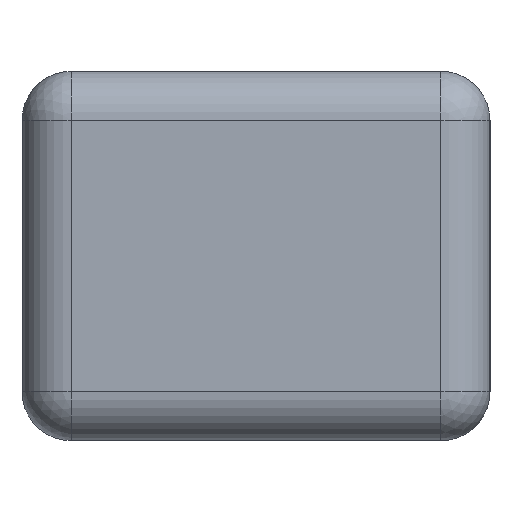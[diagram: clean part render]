
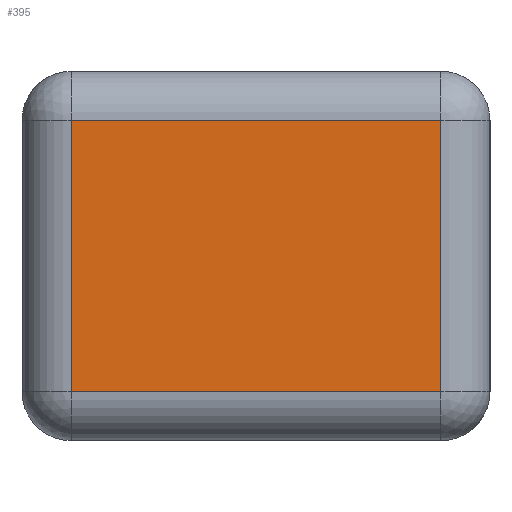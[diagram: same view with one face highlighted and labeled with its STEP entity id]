
A CAD part, left-side view. The second image highlights one B-rep face of the part: STEP entity #395.
In plain terms, the highlighted planar face has unit normal (-1, 0, 0).
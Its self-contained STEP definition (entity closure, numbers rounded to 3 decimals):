
#25=PLANE('',#469);
#29=LINE('',#646,#53);
#38=LINE('',#680,#62);
#40=LINE('',#683,#64);
#49=LINE('',#704,#73);
#53=VECTOR('',#515,10.);
#62=VECTOR('',#556,10.);
#64=VECTOR('',#560,10.);
#73=VECTOR('',#587,10.);
#113=FACE_OUTER_BOUND('',#143,.T.);
#143=EDGE_LOOP('',(#349,#350,#351,#352));
#180=VERTEX_POINT('',#616);
#186=VERTEX_POINT('',#633);
#188=VERTEX_POINT('',#639);
#199=VERTEX_POINT('',#675);
#221=EDGE_CURVE('',#188,#180,#29,.T.);
#239=EDGE_CURVE('',#186,#199,#38,.T.);
#241=EDGE_CURVE('',#199,#188,#40,.T.);
#253=EDGE_CURVE('',#180,#186,#49,.T.);
#349=ORIENTED_EDGE('',*,*,#239,.F.);
#350=ORIENTED_EDGE('',*,*,#253,.F.);
#351=ORIENTED_EDGE('',*,*,#221,.F.);
#352=ORIENTED_EDGE('',*,*,#241,.F.);
#395=ADVANCED_FACE('',(#113),#25,.T.);
#469=AXIS2_PLACEMENT_3D('',#714,#601,#602);
#515=DIRECTION('',(0.,0.,-1.));
#556=DIRECTION('',(0.,0.,1.));
#560=DIRECTION('',(0.,-1.,0.));
#587=DIRECTION('',(0.,1.,0.));
#601=DIRECTION('center_axis',(-1.,0.,0.));
#602=DIRECTION('ref_axis',(0.,-1.,0.));
#616=CARTESIAN_POINT('',(0.,2.,2.));
#633=CARTESIAN_POINT('',(0.,17.,2.));
#639=CARTESIAN_POINT('',(0.,2.,13.));
#646=CARTESIAN_POINT('',(0.,2.,0.));
#675=CARTESIAN_POINT('',(0.,17.,13.));
#680=CARTESIAN_POINT('',(0.,17.,0.));
#683=CARTESIAN_POINT('',(0.,14.25,13.));
#704=CARTESIAN_POINT('',(0.,14.25,2.));
#714=CARTESIAN_POINT('Origin',(0.,19.,0.));
